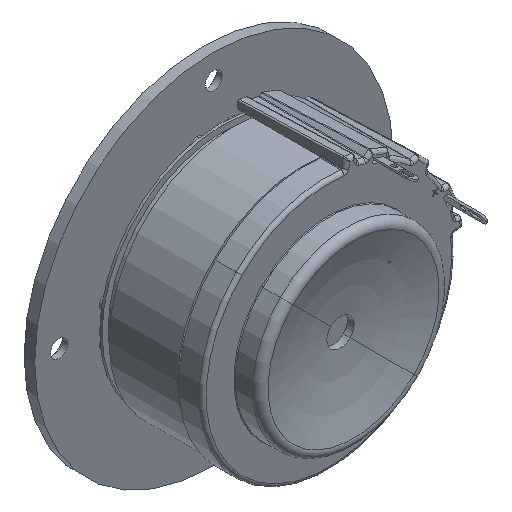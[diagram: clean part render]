
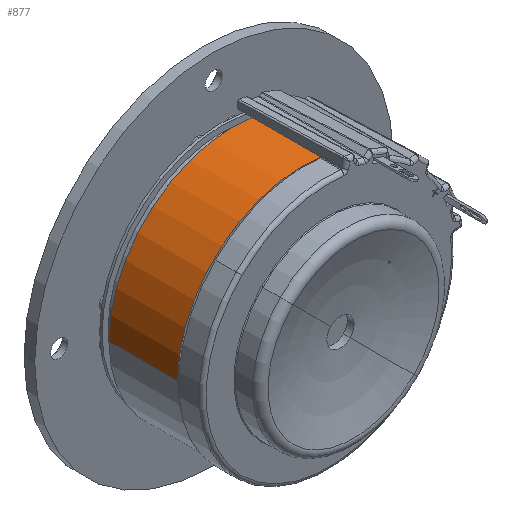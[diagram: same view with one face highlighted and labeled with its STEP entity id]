
A CAD part, isometric view. The second image highlights one B-rep face of the part: STEP entity #877.
In plain terms, the highlighted cylindrical face has radius 36 mm (diameter 72 mm), a partial arc.
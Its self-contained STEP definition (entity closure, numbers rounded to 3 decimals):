
#877 = ADVANCED_FACE ( 'NONE', ( #5123 ), #10824, .T. ) ;
#1119 = VECTOR ( 'NONE', #10870, 1000. ) ;
#1170 = AXIS2_PLACEMENT_3D ( 'NONE', #14280, #7153, #19532 ) ;
#1304 = EDGE_CURVE ( 'NONE', #16843, #17231, #4707, .T. ) ;
#1690 = DIRECTION ( 'NONE',  ( 0., 1., 0. ) ) ;
#1931 = DIRECTION ( 'NONE',  ( 1., 0., 0. ) ) ;
#2144 = EDGE_CURVE ( 'NONE', #4353, #20627, #21964, .T. ) ;
#2171 = DIRECTION ( 'NONE',  ( 0., -1., 0. ) ) ;
#2443 = CARTESIAN_POINT ( 'NONE',  ( 36., 25., 0. ) ) ;
#3630 = CARTESIAN_POINT ( 'NONE',  ( -36., 5., 0. ) ) ;
#4183 = ORIENTED_EDGE ( 'NONE', *, *, #1304, .T. ) ;
#4353 = VERTEX_POINT ( 'NONE', #19513 ) ;
#4707 = CIRCLE ( 'NONE', #17496, 36. ) ;
#5123 = FACE_OUTER_BOUND ( 'NONE', #9817, .T. ) ;
#7116 = CARTESIAN_POINT ( 'NONE',  ( 36., 25., 0. ) ) ;
#7153 = DIRECTION ( 'NONE',  ( 0., 1., 0. ) ) ;
#7392 = VECTOR ( 'NONE', #16215, 1000. ) ;
#7558 = LINE ( 'NONE', #2443, #1119 ) ;
#9191 = CARTESIAN_POINT ( 'NONE',  ( -36., 25., 0. ) ) ;
#9503 = EDGE_CURVE ( 'NONE', #20627, #17231, #7558, .T. ) ;
#9817 = EDGE_LOOP ( 'NONE', ( #17391, #17517, #12376, #4183 ) ) ;
#10824 = CYLINDRICAL_SURFACE ( 'NONE', #12834, 36. ) ;
#10870 = DIRECTION ( 'NONE',  ( 0., -1., 0. ) ) ;
#12376 = ORIENTED_EDGE ( 'NONE', *, *, #18954, .T. ) ;
#12834 = AXIS2_PLACEMENT_3D ( 'NONE', #21151, #2171, #19317 ) ;
#14280 = CARTESIAN_POINT ( 'NONE',  ( 0., 25., 0. ) ) ;
#16215 = DIRECTION ( 'NONE',  ( 0., -1., 0. ) ) ;
#16843 = VERTEX_POINT ( 'NONE', #3630 ) ;
#17231 = VERTEX_POINT ( 'NONE', #19624 ) ;
#17391 = ORIENTED_EDGE ( 'NONE', *, *, #9503, .F. ) ;
#17496 = AXIS2_PLACEMENT_3D ( 'NONE', #22476, #1690, #1931 ) ;
#17517 = ORIENTED_EDGE ( 'NONE', *, *, #2144, .F. ) ;
#17922 = LINE ( 'NONE', #9191, #7392 ) ;
#18954 = EDGE_CURVE ( 'NONE', #4353, #16843, #17922, .T. ) ;
#19317 = DIRECTION ( 'NONE',  ( -1., 0., 0. ) ) ;
#19513 = CARTESIAN_POINT ( 'NONE',  ( -36., 25., 0. ) ) ;
#19532 = DIRECTION ( 'NONE',  ( 1., 0., 0. ) ) ;
#19624 = CARTESIAN_POINT ( 'NONE',  ( 36., 5., 0. ) ) ;
#20627 = VERTEX_POINT ( 'NONE', #7116 ) ;
#21151 = CARTESIAN_POINT ( 'NONE',  ( 0., 25., 0. ) ) ;
#21964 = CIRCLE ( 'NONE', #1170, 36. ) ;
#22476 = CARTESIAN_POINT ( 'NONE',  ( 0., 5., 0. ) ) ;
